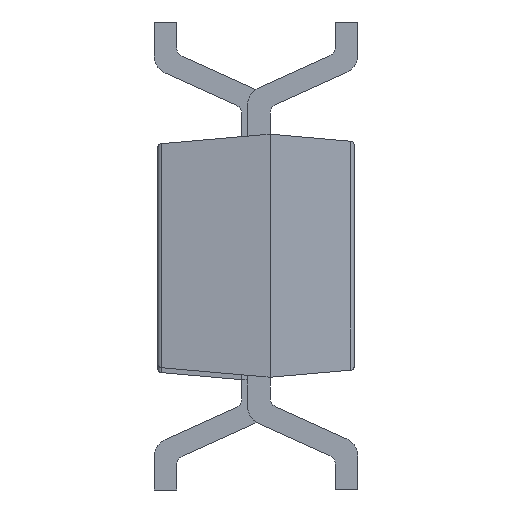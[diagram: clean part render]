
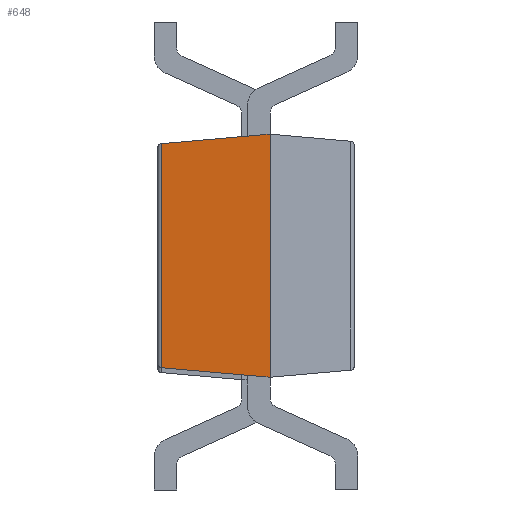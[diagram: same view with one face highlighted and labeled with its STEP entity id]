
A CAD part, left-side view. The second image highlights one B-rep face of the part: STEP entity #648.
In plain terms, the highlighted planar face has unit normal (-0.996, 0.087, 0).
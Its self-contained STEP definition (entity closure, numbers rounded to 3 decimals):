
#5 = ORIENTED_EDGE ( 'NONE', *, *, #1358, .T. ) ;
#12 = CARTESIAN_POINT ( 'NONE',  ( -1.5, 0., -0.65 ) ) ;
#69 = DIRECTION ( 'NONE',  ( 0., 0., -1. ) ) ;
#132 = DIRECTION ( 'NONE',  ( -0.087, -0.996, 0. ) ) ;
#175 = EDGE_CURVE ( 'NONE', #1458, #1056, #674, .T. ) ;
#221 = CARTESIAN_POINT ( 'NONE',  ( -1.5, 0., 0.65 ) ) ;
#324 = LINE ( 'NONE', #594, #1432 ) ;
#361 = CARTESIAN_POINT ( 'NONE',  ( -1.449, 0.582, -0.598 ) ) ;
#401 = PLANE ( 'NONE',  #1373 ) ;
#545 = DIRECTION ( 'NONE',  ( 0., 0., 1. ) ) ;
#594 = CARTESIAN_POINT ( 'NONE',  ( -1.5, 0., -0.65 ) ) ;
#648 = ADVANCED_FACE ( 'NONE', ( #1321 ), #401, .T. ) ;
#674 = LINE ( 'NONE', #221, #1777 ) ;
#675 = VERTEX_POINT ( 'NONE', #12 ) ;
#823 = LINE ( 'NONE', #1567, #1059 ) ;
#1017 = EDGE_CURVE ( 'NONE', #675, #1056, #823, .T. ) ;
#1056 = VERTEX_POINT ( 'NONE', #1595 ) ;
#1059 = VECTOR ( 'NONE', #545, 1000. ) ;
#1108 = LINE ( 'NONE', #361, #1536 ) ;
#1219 = DIRECTION ( 'NONE',  ( -0.087, -0.992, -0.087 ) ) ;
#1315 = DIRECTION ( 'NONE',  ( -0.996, 0.087, 0. ) ) ;
#1318 = VERTEX_POINT ( 'NONE', #1338 ) ;
#1321 = FACE_OUTER_BOUND ( 'NONE', #1858, .T. ) ;
#1338 = CARTESIAN_POINT ( 'NONE',  ( -1.449, 0.582, -0.599 ) ) ;
#1358 = EDGE_CURVE ( 'NONE', #1318, #675, #324, .T. ) ;
#1373 = AXIS2_PLACEMENT_3D ( 'NONE', #1601, #1315, #132 ) ;
#1384 = ORIENTED_EDGE ( 'NONE', *, *, #175, .F. ) ;
#1432 = VECTOR ( 'NONE', #1219, 1000. ) ;
#1458 = VERTEX_POINT ( 'NONE', #1665 ) ;
#1501 = EDGE_CURVE ( 'NONE', #1458, #1318, #1108, .T. ) ;
#1536 = VECTOR ( 'NONE', #69, 1000. ) ;
#1549 = DIRECTION ( 'NONE',  ( -0.087, -0.992, 0.087 ) ) ;
#1567 = CARTESIAN_POINT ( 'NONE',  ( -1.5, 0., -0.65 ) ) ;
#1595 = CARTESIAN_POINT ( 'NONE',  ( -1.5, 0., 0.65 ) ) ;
#1601 = CARTESIAN_POINT ( 'NONE',  ( -1.5, 0., -0.65 ) ) ;
#1665 = CARTESIAN_POINT ( 'NONE',  ( -1.449, 0.582, 0.599 ) ) ;
#1777 = VECTOR ( 'NONE', #1549, 1000. ) ;
#1815 = ORIENTED_EDGE ( 'NONE', *, *, #1017, .T. ) ;
#1858 = EDGE_LOOP ( 'NONE', ( #1384, #1883, #5, #1815 ) ) ;
#1883 = ORIENTED_EDGE ( 'NONE', *, *, #1501, .T. ) ;
